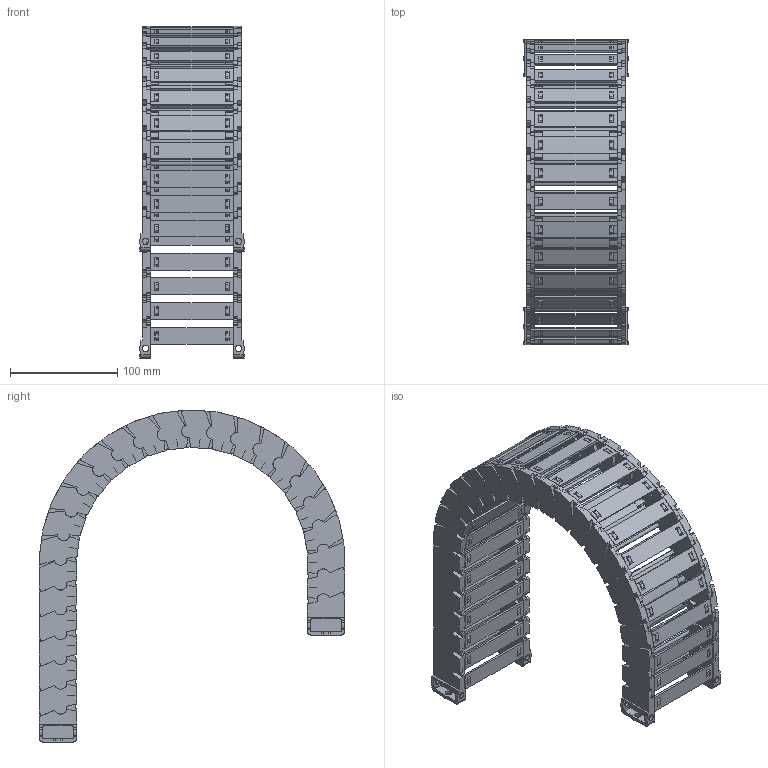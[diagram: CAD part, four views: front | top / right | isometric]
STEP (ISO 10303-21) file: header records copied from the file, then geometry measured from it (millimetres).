
FILE_DESCRIPTION((''),'2;1');
FILE_NAME('JY-25X77-R125_ASM','2022-05-07T10:56:15',('admin'),(''),'CREO PARAMETRIC BY PTC INC, 2021164','CREO PARAMETRIC BY PTC INC, 2021164','');
FILE_SCHEMA(('CONFIG_CONTROL_DESIGN','GEOMETRIC_VALIDATION_PROPERTIES_MIM'));
Length unit declared in the file: millimetre
Products named in the file (11): 25XL-L; 25-35XL-YP; 25XL-R; ASM0001_ASM; 25-LTT-A-L; 25-LTT-A-R; 25XL-LTT-A_ASM; 25-LTT-B-L; 25-LTT-B-R; 25XL-LTT-B_ASM; JY-25X77-R125_ASM
Assembly tree (38 placements, depth 3):
  JY-25X77-R125_ASM
    ASM0001_ASM  x24
      25XL-L
      25-35XL-YP
      25XL-R
    25XL-LTT-A_ASM
      25-LTT-A-L
      25-35XL-YP  x2
      25-LTT-A-R
    25XL-LTT-B_ASM
      25-LTT-B-L
      25-35XL-YP  x2
      25-LTT-B-R
Bounding box: 97.67 x 284.61 x 309.36 mm (x, y, z)
Volume: 492619.2 mm3; surface area: 365530.3 mm2
Topology: 104 solids, 128 shells, 5398 faces, 16134 edges, 10918 vertices
Faces by surface type: plane 3982, cylinder 1368, cone 48
Entity records: 24131 total; most frequent: CARTESIAN_POINT 3132, DIRECTION 3027, ORIENTED_EDGE 2962, EDGE_CURVE 1483, PRESENTATION_STYLE_ASSIGNMENT 1413, STYLED_ITEM 1381, VECTOR 1053, LINE 1053
